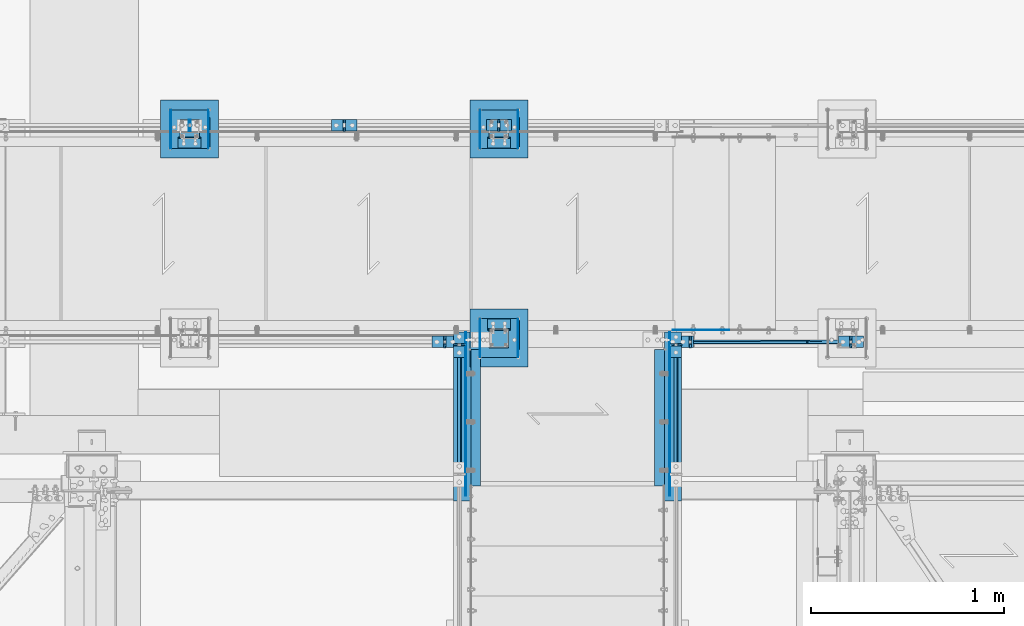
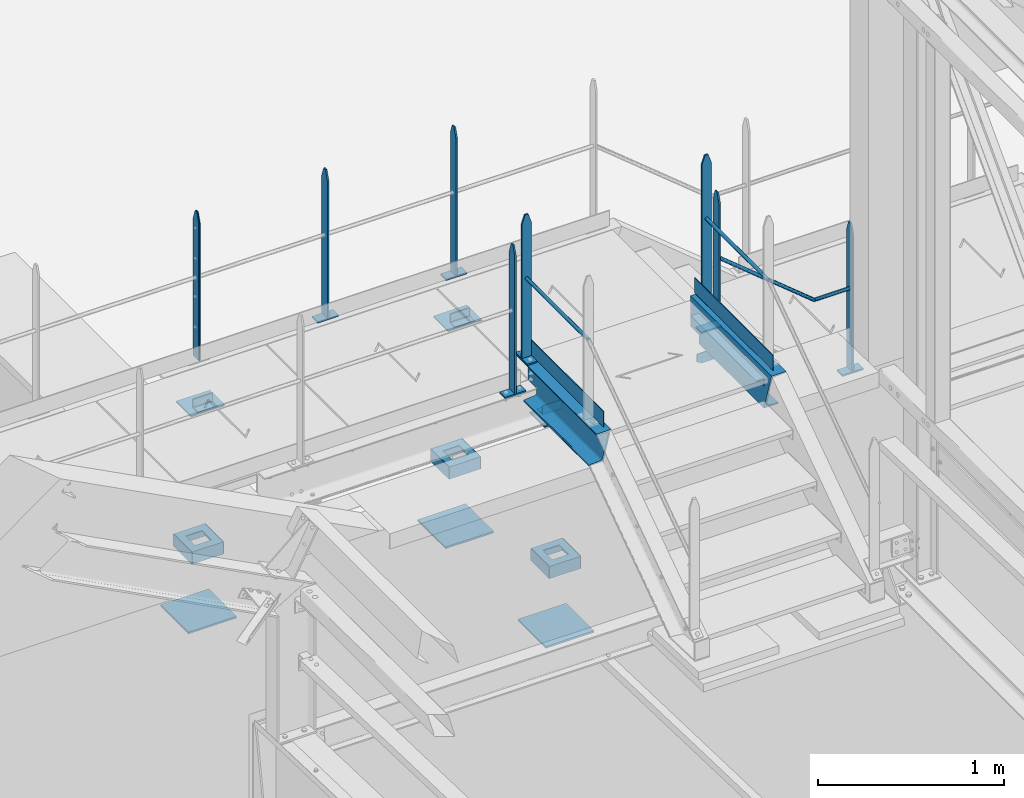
# One storey, part 98 of 362: 44 beams, 1 member, 18 elements without a shape of their own.
"""IFC2X3 building model written with IfcOpenShell, lengths in millimetres."""

from ifc_helpers import new_model, si_unit, frame, origin_with_axes, origin_2d_with_axis, place, context, subcontext, project, spatial, polyline, rectangle, hollow_circle, l_section, u_section, outline, extrude, boolean, clip, halfspace, material, type_object, element, aggregate, save


model = new_model("IFC2X3")

# Units and contexts
model_context = context("Model", 3, precision=1e-05, world=origin_with_axes())
body_context = subcontext(model_context, "Body", "Model", "MODEL_VIEW")
ifc_project = project(units=[si_unit("LENGTHUNIT", "METRE", prefix="MILLI"), si_unit("AREAUNIT", "SQUARE_METRE"), si_unit("VOLUMEUNIT", "CUBIC_METRE"), si_unit("MASSUNIT", "GRAM", prefix="KILO"), si_unit("TIMEUNIT", "SECOND"), si_unit("PLANEANGLEUNIT", "RADIAN"), si_unit("SOLIDANGLEUNIT", "STERADIAN"), si_unit("THERMODYNAMICTEMPERATUREUNIT", "DEGREE_CELSIUS"), si_unit("LUMINOUSINTENSITYUNIT", "LUMEN")], contexts=[model_context])

# Site, building, storey
site_placement = place(None, origin_with_axes())
site = spatial("IfcSite", under=ifc_project, at=site_placement, Name="Undefined", CompositionType="ELEMENT")
building_placement = place(site_placement, origin_with_axes())
building = spatial("IfcBuilding", under=site, at=building_placement, Name="Undefined", CompositionType="ELEMENT")
storey_placement = place(building_placement, origin_with_axes())
storey = spatial("IfcBuildingStorey", under=building, at=storey_placement, Name="Undefined", CompositionType="ELEMENT", Elevation=0.0)

# Assembly, beam
assembly_1_placement = place(storey_placement, origin_with_axes())
assembly_1 = element("IfcElementAssembly", 1, at=assembly_1_placement, inside=storey, Name="MAIN COURANTE", AssemblyPlace="NOTDEFINED", PredefinedType="NOTDEFINED")
ifc_material_1 = material(Name="Undefined/S235-E24")
beam_type_1 = type_object("IfcBeamType", Name="PL10*60", PredefinedType="NOTDEFINED")
beam_1_placement = place(assembly_1_placement, frame((21439.9851177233, 15970.0000882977, 8705.00000001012), z_axis=(0.0, -1.0, 0.0), x_axis=(-1.0, 0.0, 0.0)))
beam_1 = element("IfcBeam", 2, at=beam_1_placement, type_object=beam_type_1, material=ifc_material_1, Name="PLATINE", ObjectType="PL10*60", context=body_context, shape_type="SweptSolid", body=[
    extrude(rectangle(XDim=10.0, YDim=60.0, at=origin_2d_with_axis()), frame((130.0, 0.0, 0.0), z_axis=(-1.0, 0.0, 0.0), x_axis=(0.0, -1.0, 0.0)), (0.0, 0.0, 1.0), 130.0),
])
aggregate(assembly_1, [beam_1])

assembly_2_placement = place(storey_placement, origin_with_axes())
assembly_2 = element("IfcElementAssembly", 3, at=assembly_2_placement, inside=storey, Name="MONTANT", AssemblyPlace="NOTDEFINED", PredefinedType="NOTDEFINED")
beam_2_placement = place(assembly_2_placement, frame((21374.9851177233, 15970.0000882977, 9677.59999847), z_axis=(0.0, 1.0, 0.0), x_axis=(0.0, 0.0, -1.0)))
beam_2 = element("IfcBeam", 4, at=beam_2_placement, type_object=beam_type_1, material=ifc_material_1, Name="MONTANT", ObjectType="PL10*60", context=body_context, shape_type="Clipping", body=[
    clip(clip(extrude(rectangle(XDim=10.0, YDim=60.0, at=origin_2d_with_axis()), frame((967.599838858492, 0.0, 0.0), z_axis=(-1.0, 0.0, 0.0), x_axis=(0.0, -1.0, 0.0)), (0.0, 0.0, 1.0), 967.6), halfspace(frame((-119.99851575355, 5.0, -30.0), z_axis=(-0.316227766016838, 0.0, 0.948683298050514), x_axis=(0.948683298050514, 0.0, 0.316227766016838)), False)), halfspace(frame((60.0014842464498, 5.0, -30.0), z_axis=(-0.316227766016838, 0.0, -0.948683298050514), x_axis=(-0.948683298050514, 0.0, 0.316227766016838)), False)),
])
aggregate(assembly_2, [beam_2])

# Assembly, beams
assembly_3_placement = place(storey_placement, origin_with_axes())
assembly_3 = element("IfcElementAssembly", 5, at=assembly_3_placement, inside=storey, Name="MAIN COURANTE", AssemblyPlace="NOTDEFINED", PredefinedType="NOTDEFINED")
beam_3_placement = place(assembly_3_placement, frame((22660.0061849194, 15970.0000882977, 8705.00015961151), z_axis=(0.0, -1.0, 0.0), x_axis=(-1.0, 0.0, 0.0)))
beam_3 = element("IfcBeam", 6, at=beam_3_placement, type_object=beam_type_1, material=ifc_material_1, Name="PLATINE", ObjectType="PL10*60", context=body_context, shape_type="SweptSolid", body=[
    extrude(rectangle(XDim=10.0, YDim=60.0, at=origin_2d_with_axis()), frame((130.0, 0.0, 0.0), z_axis=(-1.0, 0.0, 0.0), x_axis=(0.0, -1.0, 0.0)), (0.0, 0.0, 1.0), 130.0),
])
beam_4_placement = place(assembly_3_placement, frame((22645.0061849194, 15970.0000882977, 9582.39164232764), z_axis=(0.0, 1.0, 0.0), x_axis=(0.0, 0.0, -1.0)))
beam_4 = element("IfcBeam", 7, at=beam_4_placement, type_object=beam_type_1, material=ifc_material_1, Name="MONTANT", ObjectType="PL10*60", context=body_context, shape_type="Clipping", body=[
    clip(clip(clip(extrude(rectangle(XDim=10.0, YDim=60.0, at=origin_2d_with_axis()), frame((872.391482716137, 0.0, 0.0), z_axis=(-1.0, 0.0, 0.0), x_axis=(0.0, -1.0, 0.0)), (0.0, 0.0, 1.0), 876.53), halfspace(frame((-119.99851575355, -5.0, -30.0), z_axis=(-0.316227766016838, 0.0, 0.948683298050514), x_axis=(0.0, 1.0, 0.0)), False)), halfspace(frame((60.0014842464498, -5.0, -30.0), z_axis=(-0.316227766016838, 0.0, -0.948683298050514), x_axis=(0.0, 1.0, 0.0)), False)), halfspace(frame((7.28321514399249, -8.88829265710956, 0.0), z_axis=(0.773488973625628, 0.633809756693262, 0.0), x_axis=(0.0, 0.0, 1.0)), True)),
])
beam_5_placement = place(assembly_3_placement, frame((23540.0061849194, 15970.0000882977, 8114.9999407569), z_axis=(0.0, -1.0, 0.0), x_axis=(-1.0, 0.0, 0.0)))
beam_5 = element("IfcBeam", 8, at=beam_5_placement, type_object=beam_type_1, material=ifc_material_1, Name="PLATINE", ObjectType="PL10*60", context=body_context, shape_type="SweptSolid", body=[
    extrude(rectangle(XDim=10.0, YDim=60.0, at=origin_2d_with_axis()), frame((130.0, 0.0, 0.0), z_axis=(-1.0, 0.0, 0.0), x_axis=(0.0, -1.0, 0.0)), (0.0, 0.0, 1.0), 130.0),
])
beam_6_placement = place(assembly_3_placement, frame((23475.0061849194, 15970.0000882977, 9087.59993922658), z_axis=(0.0, 1.0, 0.0), x_axis=(0.0, 0.0, -1.0)))
beam_6 = element("IfcBeam", 9, at=beam_6_placement, type_object=beam_type_1, material=ifc_material_1, Name="MONTANT", ObjectType="PL10*60", context=body_context, shape_type="Clipping", body=[
    clip(clip(extrude(rectangle(XDim=10.0, YDim=60.0, at=origin_2d_with_axis()), frame((967.59999845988, 0.0, 0.0), z_axis=(-1.0, 0.0, 0.0), x_axis=(0.0, -1.0, 0.0)), (0.0, 0.0, 1.0), 967.6), halfspace(frame((-120.0, -5.0, -30.0), z_axis=(-0.316227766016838, 0.0, 0.948683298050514), x_axis=(0.0, 1.0, 0.0)), False)), halfspace(frame((60.0, -5.0, -30.0), z_axis=(-0.316227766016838, 0.0, -0.948683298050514), x_axis=(0.0, 1.0, 0.0)), False)),
])

assembly_4_placement = place(storey_placement, origin_with_axes())
assembly_4 = element("IfcElementAssembly", 10, at=assembly_4_placement, inside=storey, Name="MAIN COURANTE", AssemblyPlace="NOTDEFINED", PredefinedType="NOTDEFINED")
beam_7_placement = place(assembly_4_placement, frame((20919.9961849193, 17089.9938659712, 8705.00000001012), z_axis=(0.0, 1.0, 0.0), x_axis=(-1.0, 0.0, 0.0)))
beam_7 = element("IfcBeam", 11, at=beam_7_placement, type_object=beam_type_1, material=ifc_material_1, Name="PLATINE", ObjectType="PL10*60", context=body_context, shape_type="SweptSolid", body=[
    extrude(rectangle(XDim=10.0, YDim=60.0, at=origin_2d_with_axis()), frame((130.0, 0.0, 0.0), z_axis=(-1.0, 0.0, 0.0), x_axis=(0.0, -1.0, 0.0)), (0.0, 0.0, 1.0), 130.0),
])
beam_8_placement = place(assembly_4_placement, frame((20854.9961849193, 17089.9938659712, 9677.59999847), z_axis=(0.0, -1.0, 0.0), x_axis=(0.0, 0.0, -1.0)))
beam_8 = element("IfcBeam", 12, at=beam_8_placement, type_object=beam_type_1, material=ifc_material_1, Name="MONTANT", ObjectType="PL10*60", context=body_context, shape_type="Clipping", body=[
    clip(clip(extrude(rectangle(XDim=10.0, YDim=60.0, at=origin_2d_with_axis()), frame((967.59999845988, 0.0, 0.0), z_axis=(-1.0, 0.0, 0.0), x_axis=(0.0, -1.0, 0.0)), (0.0, 0.0, 1.0), 967.6), halfspace(frame((-120.0, 5.0, -30.0), z_axis=(-0.316227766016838, 0.0, 0.948683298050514), x_axis=(0.948683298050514, 0.0, 0.316227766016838)), False)), halfspace(frame((60.0, 5.0, -30.0), z_axis=(-0.316227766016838, 0.0, -0.948683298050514), x_axis=(-0.948683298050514, 0.0, 0.316227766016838)), False)),
])
beam_9_placement = place(assembly_4_placement, frame((21719.9961849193, 17089.9938659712, 8705.00000001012), z_axis=(0.0, 1.0, 0.0), x_axis=(-1.0, 0.0, 0.0)))
beam_9 = element("IfcBeam", 13, at=beam_9_placement, type_object=beam_type_1, material=ifc_material_1, Name="PLATINE", ObjectType="PL10*60", context=body_context, shape_type="SweptSolid", body=[
    extrude(rectangle(XDim=10.0, YDim=60.0, at=origin_2d_with_axis()), frame((130.0, 0.0, 0.0), z_axis=(-1.0, 0.0, 0.0), x_axis=(0.0, -1.0, 0.0)), (0.0, 0.0, 1.0), 130.0),
])

assembly_5_placement = place(storey_placement, origin_with_axes())
assembly_5 = element("IfcElementAssembly", 14, at=assembly_5_placement, inside=storey, Name="MAIN COURANTE", AssemblyPlace="NOTDEFINED", PredefinedType="NOTDEFINED")
beam_10_placement = place(assembly_5_placement, frame((21449.9863365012, 16019.9996531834, 8915.0), z_axis=(-1.0, 0.0, 0.0), x_axis=(0.0, -1.0, 0.0)))
beam_10 = element("IfcBeam", 15, at=beam_10_placement, type_object=beam_type_1, material=ifc_material_1, Name="PLATINE", ObjectType="PL10*60", context=body_context, shape_type="SweptSolid", body=[
    extrude(rectangle(XDim=10.0, YDim=60.0, at=origin_2d_with_axis()), frame((130.0, 0.0, 0.0), z_axis=(-1.0, 0.0, 0.0), x_axis=(0.0, -1.0, 0.0)), (0.0, 0.0, 1.0), 130.0),
])
beam_11_placement = place(assembly_5_placement, frame((21449.9862112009, 15954.9996531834, 9857.59999847), z_axis=(-0.99999999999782, -2.08799999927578e-06, 0.0), x_axis=(0.0, 0.0, -1.0)))
beam_11 = element("IfcBeam", 16, at=beam_11_placement, type_object=beam_type_1, material=ifc_material_1, Name="MONTANT", ObjectType="PL10*60", context=body_context, shape_type="Clipping", body=[
    clip(clip(extrude(rectangle(XDim=10.0, YDim=60.0, at=origin_2d_with_axis()), frame((937.599998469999, 0.0, 0.0), z_axis=(-1.0, 0.0, 0.0), x_axis=(0.0, -1.0, 0.0)), (0.0, 0.0, 1.0), 937.6), halfspace(frame((-119.999937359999, -4.99999999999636, -30.0), z_axis=(-0.316227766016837, -1.98085072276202e-06, 0.948683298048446), x_axis=(-6.26399999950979e-06, 0.999999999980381, -3.63797880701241e-15)), False)), halfspace(frame((60.0, -5.0, -30.0), z_axis=(-0.316227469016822, 1.98084886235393e-06, -0.948683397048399), x_axis=(6.26399999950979e-06, 0.999999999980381, -3.63797880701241e-15)), False)),
])

assembly_6_placement = place(storey_placement, origin_with_axes())
assembly_6 = element("IfcElementAssembly", 17, at=assembly_6_placement, inside=storey, Name="MAIN COURANTE", AssemblyPlace="NOTDEFINED", PredefinedType="NOTDEFINED")
beam_12_placement = place(assembly_6_placement, frame((22569.9936634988, 16019.9996531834, 8915.0), z_axis=(1.0, 0.0, 0.0), x_axis=(0.0, -1.0, 0.0)))
beam_12 = element("IfcBeam", 18, at=beam_12_placement, type_object=beam_type_1, material=ifc_material_1, Name="PLATINE", ObjectType="PL10*60", context=body_context, shape_type="SweptSolid", body=[
    extrude(rectangle(XDim=10.0, YDim=60.0, at=origin_2d_with_axis()), frame((130.0, 0.0, 0.0), z_axis=(-1.0, 0.0, 0.0), x_axis=(0.0, -1.0, 0.0)), (0.0, 0.0, 1.0), 130.0),
])
beam_13_placement = place(assembly_6_placement, frame((22569.9937887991, 15954.9996531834, 9857.59999847), z_axis=(0.999999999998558, -1.69800000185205e-06, 0.0), x_axis=(0.0, 0.0, -1.0)))
beam_13 = element("IfcBeam", 19, at=beam_13_placement, type_object=beam_type_1, material=ifc_material_1, Name="MONTANT", ObjectType="PL10*60", context=body_context, shape_type="Clipping", body=[
    clip(clip(extrude(rectangle(XDim=10.0, YDim=60.0, at=origin_2d_with_axis()), frame((937.599998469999, 0.0, 0.0), z_axis=(-1.0, 0.0, 0.0), x_axis=(0.0, -1.0, 0.0)), (0.0, 0.0, 1.0), 937.6), halfspace(frame((-119.999937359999, 4.99999999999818, -30.0), z_axis=(-0.316227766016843, 1.98085072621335e-06, 0.948683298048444), x_axis=(0.948683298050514, 0.0, 0.316227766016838)), False)), halfspace(frame((60.0, 5.0, -30.0), z_axis=(-0.316227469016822, -1.98084886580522e-06, -0.948683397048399), x_axis=(-0.948683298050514, 0.0, 0.316227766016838)), False)),
])

# Beam
beam_14_placement = place(assembly_4_placement, frame((21654.9961849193, 17089.9938659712, 9677.59999847), z_axis=(0.0, -1.0, 0.0), x_axis=(0.0, 0.0, -1.0)))
beam_14 = element("IfcBeam", 20, at=beam_14_placement, type_object=beam_type_1, material=ifc_material_1, Name="MONTANT", ObjectType="PL10*60", context=body_context, shape_type="Clipping", body=[
    clip(clip(extrude(rectangle(XDim=10.0, YDim=60.0, at=origin_2d_with_axis()), frame((967.59999845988, 0.0, 0.0), z_axis=(-1.0, 0.0, 0.0), x_axis=(0.0, -1.0, 0.0)), (0.0, 0.0, 1.0), 967.6), halfspace(frame((-120.0, 5.0, -30.0), z_axis=(-0.316227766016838, 0.0, 0.948683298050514), x_axis=(0.948683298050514, 0.0, 0.316227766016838)), False)), halfspace(frame((60.0, 5.0, -30.0), z_axis=(-0.316227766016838, 0.0, -0.948683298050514), x_axis=(-0.948683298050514, 0.0, 0.316227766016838)), False)),
])

beam_type_2 = type_object("IfcBeamType", Name="TUBE-21.3*2", PredefinedType="NOTDEFINED")
beam_15_placement = place(assembly_3_placement, frame((23250.3145397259, 15970.0002031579, 8653.80000001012), z_axis=(0.0, -1.0, 0.0), x_axis=(1.0, 0.0, 0.0)))
beam_15 = element("IfcBeam", 21, at=beam_15_placement, type_object=beam_type_2, material=ifc_material_1, Name="LISSE", ObjectType="TUBE-21.3*2", context=body_context, shape_type="Clipping", body=[
    clip(extrude(hollow_circle(Radius=10.64999962, WallThickness=2.0, at=origin_2d_with_axis()), frame((219.691645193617, 1.81898940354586e-12, 0.0), z_axis=(-1.0, 0.0, 0.0), x_axis=(0.0, -1.0, 0.0)), (0.0, 0.0, 1.0), 223.54), halfspace(frame((3.80609846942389, 10.6499996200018, 0.000112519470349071), z_axis=(0.941671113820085, -0.336534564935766, -5.79127735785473e-07), x_axis=(-0.336534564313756, -0.941671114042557, 0.0)), True)),
])

beam_16_placement = place(assembly_6_placement, frame((22569.9936634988, 15290.0038659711, 9438.8), z_axis=(0.999999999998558, -1.69800000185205e-06, 0.0), x_axis=(1.69800000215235e-06, 0.999999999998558, 0.0)))
beam_16 = element("IfcBeam", 22, at=beam_16_placement, type_object=beam_type_2, material=ifc_material_1, Name="LISSE", ObjectType="TUBE-21.3*2", context=body_context, shape_type="SweptSolid", body=[
    extrude(hollow_circle(Radius=10.64999962, WallThickness=2.0, at=origin_2d_with_axis()), frame((659.995802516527, 1.81898940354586e-12, -1.3975954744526e-19), z_axis=(-1.0, 0.0, 0.0), x_axis=(0.0, -1.0, 0.0)), (0.0, 0.0, 1.0), 660.0),
])

beam_17_placement = place(assembly_5_placement, frame((21449.9863365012, 15290.0038659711, 9438.8), z_axis=(-0.99999999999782, -2.08799999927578e-06, 0.0), x_axis=(-1.15500000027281e-06, 0.999999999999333, 0.0)))
beam_17 = element("IfcBeam", 23, at=beam_17_placement, type_object=beam_type_2, material=ifc_material_1, Name="LISSE", ObjectType="TUBE-21.3*2", context=body_context, shape_type="SweptSolid", body=[
    extrude(hollow_circle(Radius=10.64999962, WallThickness=2.0, at=origin_2d_with_axis()), frame((659.995802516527, 1.81898940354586e-12, -1.3975954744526e-19), z_axis=(-1.0, 0.0, 0.0), x_axis=(0.0, -1.0, 0.0)), (0.0, 0.0, 1.0), 660.0),
])

# Member
member_type = type_object("IfcMemberType", Name="TUBE-21.3*2", PredefinedType="NOTDEFINED")
member_placement = place(assembly_3_placement, frame((23250.3145397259, 15970.0040747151, 8653.80000001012), z_axis=(0.0, 1.0, 0.0), x_axis=(-0.773488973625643, 0.0, 0.633809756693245)))
member = element("IfcMember", 24, at=member_placement, type_object=member_type, material=ifc_material_1, Name="LISSE", ObjectType="TUBE-21.3*2", context=body_context, shape_type="Clipping", body=[
    clip(clip(extrude(hollow_circle(Radius=10.64999962, WallThickness=2.0, at=origin_2d_with_axis()), frame((794.709650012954, 0.0, 0.0), z_axis=(-1.0, 0.0, 0.0), x_axis=(0.0, -1.0, 0.0)), (0.0, 0.0, 1.0), 813.31), halfspace(frame((787.048146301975, 13.3552820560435, -0.00398641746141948), z_axis=(-0.773488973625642, 0.633809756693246, 0.0), x_axis=(-0.633809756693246, -0.773488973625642, 0.0)), True)), halfspace(frame((3.80609846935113, 10.6499996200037, -0.00398641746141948), z_axis=(-0.941671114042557, 0.336534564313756, 0.0), x_axis=(-0.336534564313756, -0.941671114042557, 0.0)), False)),
])

aggregate(assembly_3, [beam_3, beam_4, beam_5, member, beam_15, beam_6])

# Assembly, beam
assembly_7_placement = place(storey_placement, origin_with_axes())
assembly_7 = element("IfcElementAssembly", 25, at=assembly_7_placement, inside=storey, AssemblyPlace="NOTDEFINED", PredefinedType="NOTDEFINED")
beam_type_3 = type_object("IfcBeamType", Name="PL12*300", PredefinedType="NOTDEFINED")
beam_18_placement = place(assembly_7_placement, frame((20205.0, 17219.9998774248, 7056.0), z_axis=(0.0, 0.0, 1.0), x_axis=(-1.0, 0.0, 0.0)))
beam_18 = element("IfcBeam", 26, at=beam_18_placement, type_object=beam_type_3, material=ifc_material_1, Name="PLATINE", ObjectType="PL12*300", context=body_context, shape_type="SweptSolid", body=[
    extrude(outline(polyline([(0.0, 0.0), (300.0, 0.0), (300.0, 300.0), (0.0, 300.0), (0.0, 0.0)])), frame((0.0, 0.0, -6.0), z_axis=(0.0, 0.0, 1.0), x_axis=(1.0, 0.0, 0.0)), (0.0, 0.0, 1.0), 12.0),
])

assembly_8_placement = place(storey_placement, origin_with_axes())
assembly_8 = element("IfcElementAssembly", 27, at=assembly_8_placement, inside=storey, AssemblyPlace="NOTDEFINED", PredefinedType="NOTDEFINED")
beam_19_placement = place(assembly_8_placement, frame((21805.0, 15840.0001225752, 7056.0), z_axis=(0.0, 0.0, -1.0), x_axis=(-1.0, 0.0, 0.0)))
beam_19 = element("IfcBeam", 28, at=beam_19_placement, type_object=beam_type_3, material=ifc_material_1, Name="PLATINE", ObjectType="PL12*300", context=body_context, shape_type="SweptSolid", body=[
    extrude(outline(polyline([(0.0, 0.0), (300.0, 0.0), (300.0, 300.0), (0.0, 300.0), (0.0, 0.0)])), frame((0.0, 0.0, -6.0), z_axis=(0.0, 0.0, 1.0), x_axis=(1.0, 0.0, 0.0)), (0.0, 0.0, 1.0), 12.0),
])

assembly_9_placement = place(storey_placement, origin_with_axes())
assembly_9 = element("IfcElementAssembly", 29, at=assembly_9_placement, inside=storey, AssemblyPlace="NOTDEFINED", PredefinedType="NOTDEFINED")
beam_20_placement = place(assembly_9_placement, frame((21805.0, 17219.9998774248, 7056.0), z_axis=(0.0, 0.0, 1.0), x_axis=(-1.0, 0.0, 0.0)))
beam_20 = element("IfcBeam", 30, at=beam_20_placement, type_object=beam_type_3, material=ifc_material_1, Name="PLATINE", ObjectType="PL12*300", context=body_context, shape_type="SweptSolid", body=[
    extrude(outline(polyline([(0.0, 0.0), (300.0, 0.0), (300.0, 300.0), (0.0, 300.0), (0.0, 0.0)])), frame((0.0, 0.0, -6.0), z_axis=(0.0, 0.0, 1.0), x_axis=(1.0, 0.0, 0.0)), (0.0, 0.0, 1.0), 12.0),
])

# Beam
beam_type_4 = type_object("IfcBeamType", Name="PL100*5", PredefinedType="NOTDEFINED")
beam_21_placement = place(assembly_5_placement, frame((21482.4987221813, 16019.9997158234, 8970.0), z_axis=(0.0, 0.0, -1.0), x_axis=(0.0, -1.0, 0.0)))
beam_21 = element("IfcBeam", 31, at=beam_21_placement, type_object=beam_type_4, material=ifc_material_1, Name="PLINTHE", ObjectType="PL100*5", context=body_context, shape_type="SweptSolid", body=[
    extrude(rectangle(XDim=5.0, YDim=100.0, at=origin_2d_with_axis()), frame((844.999940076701, 0.0, 0.0), z_axis=(-1.0, 0.0, 0.0), x_axis=(0.0, -1.0, 0.0)), (0.0, 0.0, 1.0), 845.0),
])

aggregate(assembly_5, [beam_17, beam_21, beam_10, beam_11])

beam_22_placement = place(assembly_6_placement, frame((22537.4812778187, 16019.9997158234, 8970.0), z_axis=(0.0, 0.0, -1.0), x_axis=(0.0, -1.0, 0.0)))
beam_22 = element("IfcBeam", 32, at=beam_22_placement, type_object=beam_type_4, material=ifc_material_1, Name="PLINTHE", ObjectType="PL100*5", context=body_context, shape_type="SweptSolid", body=[
    extrude(rectangle(XDim=5.0, YDim=100.0, at=origin_2d_with_axis()), frame((844.999940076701, 0.0, 0.0), z_axis=(-1.0, 0.0, 0.0), x_axis=(0.0, -1.0, 0.0)), (0.0, 0.0, 1.0), 845.0),
])

aggregate(assembly_6, [beam_16, beam_22, beam_12, beam_13])

beam_type_5 = type_object("IfcBeamType", Name="PL5*60", PredefinedType="NOTDEFINED")
beam_23_placement = place(assembly_4_placement, frame((20057.4961849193, 17089.9938659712, 9677.59999847), z_axis=(0.0, -1.0, 0.0), x_axis=(0.0, 0.0, -1.0)))
beam_23 = element("IfcBeam", 33, at=beam_23_placement, type_object=beam_type_5, material=ifc_material_1, Name="MONTANT", ObjectType="PL5*60", context=body_context, shape_type="Clipping", body=[
    clip(clip(extrude(rectangle(XDim=5.0, YDim=60.0, at=origin_2d_with_axis()), frame((967.59999845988, 0.0, 0.0), z_axis=(-1.0, 0.0, 0.0), x_axis=(0.0, -1.0, 0.0)), (0.0, 0.0, 1.0), 967.6), halfspace(frame((-120.0, -5.0, -30.0), z_axis=(-0.316227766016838, 0.0, 0.948683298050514), x_axis=(0.0, 1.0, 0.0)), False)), halfspace(frame((60.0, -5.0, -30.0), z_axis=(-0.316227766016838, 0.0, -0.948683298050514), x_axis=(0.0, 1.0, 0.0)), False)),
])

aggregate(assembly_4, [beam_23, beam_7, beam_8, beam_9, beam_14])

# Assembly, beam
assembly_10_placement = place(storey_placement, origin_with_axes())
assembly_10 = element("IfcElementAssembly", 34, at=assembly_10_placement, inside=storey, Name="MAIN COURANTE", AssemblyPlace="NOTDEFINED", PredefinedType="NOTDEFINED")
beam_24_placement = place(assembly_10_placement, frame((20052.4961849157, 17089.9938659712, 9677.59999847), z_axis=(0.0, -1.0, 0.0), x_axis=(0.0, 0.0, -1.0)))
beam_24 = element("IfcBeam", 35, at=beam_24_placement, type_object=beam_type_5, material=ifc_material_1, Name="MONTANT", ObjectType="PL5*60", context=body_context, shape_type="Clipping", body=[
    clip(clip(extrude(rectangle(XDim=5.0, YDim=60.0, at=origin_2d_with_axis()), frame((967.59999845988, 0.0, 0.0), z_axis=(-1.0, 0.0, 0.0), x_axis=(0.0, -1.0, 0.0)), (0.0, 0.0, 1.0), 967.6), halfspace(frame((-120.0, 5.0, -30.0), z_axis=(-0.316227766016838, 0.0, 0.948683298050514), x_axis=(0.948683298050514, 0.0, 0.316227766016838)), False)), halfspace(frame((60.0, 5.0, -30.0), z_axis=(-0.316227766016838, 0.0, -0.948683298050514), x_axis=(-0.948683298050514, 0.0, 0.316227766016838)), False)),
])
aggregate(assembly_10, [beam_24])

# Beam
beam_type_6 = type_object("IfcBeamType", Name="PL8*160", PredefinedType="NOTDEFINED")
beam_25_placement = place(assembly_7_placement, frame((20160.0, 17129.9993585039, 8436.00011661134), z_axis=(0.0, 0.0, 1.0), x_axis=(-1.0, 0.0, 0.0)))
beam_25 = element("IfcBeam", 36, at=beam_25_placement, type_object=beam_type_6, material=ifc_material_1, Name="PLATINE", ObjectType="PL8*160", context=body_context, shape_type="SweptSolid", body=[
    extrude(outline(polyline([(0.0, 0.0), (210.0, 0.0), (210.0, 159.999481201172), (0.0, 159.999481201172), (0.0, 0.0)])), frame((0.0, 0.0, -4.0), z_axis=(0.0, 0.0, 1.0), x_axis=(1.0, 0.0, 0.0)), (0.0, 0.0, 1.0), 8.0),
])

beam_26_placement = place(assembly_8_placement, frame((21760.0, 15930.0006414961, 8436.00011661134), z_axis=(0.0, 0.0, -1.0), x_axis=(-1.0, 0.0, 0.0)))
beam_26 = element("IfcBeam", 37, at=beam_26_placement, type_object=beam_type_6, material=ifc_material_1, Name="PLATINE", ObjectType="PL8*160", context=body_context, shape_type="SweptSolid", body=[
    extrude(outline(polyline([(0.0, 0.0), (210.0, 0.0), (210.0, 159.999481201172), (0.0, 159.999481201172), (0.0, 0.0)])), frame((0.0, 0.0, -4.0), z_axis=(0.0, 0.0, 1.0), x_axis=(1.0, 0.0, 0.0)), (0.0, 0.0, 1.0), 8.0),
])

beam_27_placement = place(assembly_9_placement, frame((21760.0, 17129.9993585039, 8436.00011661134), z_axis=(0.0, 0.0, 1.0), x_axis=(-1.0, 0.0, 0.0)))
beam_27 = element("IfcBeam", 38, at=beam_27_placement, type_object=beam_type_6, material=ifc_material_1, Name="PLATINE", ObjectType="PL8*160", context=body_context, shape_type="SweptSolid", body=[
    extrude(outline(polyline([(0.0, 0.0), (210.0, 0.0), (210.0, 159.999481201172), (0.0, 159.999481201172), (0.0, 0.0)])), frame((0.0, 0.0, -4.0), z_axis=(0.0, 0.0, 1.0), x_axis=(1.0, 0.0, 0.0)), (0.0, 0.0, 1.0), 8.0),
])

beam_type_7 = type_object("IfcBeamType", Name="PL4*80", PredefinedType="NOTDEFINED")
beam_28_placement = place(assembly_7_placement, frame((20153.0, 16969.9998774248, 7500.0), z_axis=(0.0, 0.0, 1.0), x_axis=(0.0, 1.0, 0.0)))
beam_28 = element("IfcBeam", 39, at=beam_28_placement, type_object=beam_type_7, material=ifc_material_1, Name="BORD COLLERETTE", ObjectType="PL4*80", context=body_context, shape_type="SweptSolid", body=[
    extrude(rectangle(XDim=4.0, YDim=80.0, at=origin_2d_with_axis()), frame((200.0, 0.0, 0.0), z_axis=(-1.0, 0.0, 0.0), x_axis=(0.0, -1.0, 0.0)), (0.0, 0.0, 1.0), 200.0),
])

beam_29_placement = place(assembly_7_placement, frame((19957.0, 16969.9998774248, 7500.0), z_axis=(0.0, 0.0, 1.0), x_axis=(0.0, 1.0, 0.0)))
beam_29 = element("IfcBeam", 40, at=beam_29_placement, type_object=beam_type_7, material=ifc_material_1, Name="BORD COLLERETTE", ObjectType="PL4*80", context=body_context, shape_type="SweptSolid", body=[
    extrude(rectangle(XDim=4.0, YDim=80.0, at=origin_2d_with_axis()), frame((200.0, 0.0, 0.0), z_axis=(-1.0, 0.0, 0.0), x_axis=(0.0, -1.0, 0.0)), (0.0, 0.0, 1.0), 200.0),
])

beam_30_placement = place(assembly_8_placement, frame((21753.0, 16090.0001225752, 7500.0), z_axis=(0.0, 0.0, 1.0), x_axis=(0.0, -1.0, 0.0)))
beam_30 = element("IfcBeam", 41, at=beam_30_placement, type_object=beam_type_7, material=ifc_material_1, Name="BORD COLLERETTE", ObjectType="PL4*80", context=body_context, shape_type="SweptSolid", body=[
    extrude(rectangle(XDim=4.0, YDim=80.0, at=origin_2d_with_axis()), frame((200.0, 0.0, 0.0), z_axis=(-1.0, 0.0, 0.0), x_axis=(0.0, -1.0, 0.0)), (0.0, 0.0, 1.0), 200.0),
])

beam_31_placement = place(assembly_8_placement, frame((21557.0, 16090.0001225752, 7500.0), z_axis=(0.0, 0.0, 1.0), x_axis=(0.0, -1.0, 0.0)))
beam_31 = element("IfcBeam", 42, at=beam_31_placement, type_object=beam_type_7, material=ifc_material_1, Name="BORD COLLERETTE", ObjectType="PL4*80", context=body_context, shape_type="SweptSolid", body=[
    extrude(rectangle(XDim=4.0, YDim=80.0, at=origin_2d_with_axis()), frame((200.0, 0.0, 0.0), z_axis=(-1.0, 0.0, 0.0), x_axis=(0.0, -1.0, 0.0)), (0.0, 0.0, 1.0), 200.0),
])

beam_32_placement = place(assembly_9_placement, frame((21753.0, 16969.9998774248, 7500.0), z_axis=(0.0, 0.0, 1.0), x_axis=(0.0, 1.0, 0.0)))
beam_32 = element("IfcBeam", 43, at=beam_32_placement, type_object=beam_type_7, material=ifc_material_1, Name="BORD COLLERETTE", ObjectType="PL4*80", context=body_context, shape_type="SweptSolid", body=[
    extrude(rectangle(XDim=4.0, YDim=80.0, at=origin_2d_with_axis()), frame((200.0, 0.0, 0.0), z_axis=(-1.0, 0.0, 0.0), x_axis=(0.0, -1.0, 0.0)), (0.0, 0.0, 1.0), 200.0),
])

beam_33_placement = place(assembly_9_placement, frame((21557.0, 16969.9998774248, 7500.0), z_axis=(0.0, 0.0, 1.0), x_axis=(0.0, 1.0, 0.0)))
beam_33 = element("IfcBeam", 44, at=beam_33_placement, type_object=beam_type_7, material=ifc_material_1, Name="BORD COLLERETTE", ObjectType="PL4*80", context=body_context, shape_type="SweptSolid", body=[
    extrude(rectangle(XDim=4.0, YDim=80.0, at=origin_2d_with_axis()), frame((200.0, 0.0, 0.0), z_axis=(-1.0, 0.0, 0.0), x_axis=(0.0, -1.0, 0.0)), (0.0, 0.0, 1.0), 200.0),
])

beam_type_8 = type_object("IfcBeamType", Name="UPF-200*80*4", PredefinedType="NOTDEFINED")
beam_34_placement = place(assembly_7_placement, frame((19959.0, 17069.9998774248, 7500.0), z_axis=(0.0, -1.0, 0.0), x_axis=(1.0, 0.0, 0.0)))
beam_34 = element("IfcBeam", 45, at=beam_34_placement, type_object=beam_type_8, material=ifc_material_1, Name="COLLERETTE", ObjectType="UPF-200*80*4", context=body_context, shape_type="CSG", body=[
    boolean("DIFFERENCE", extrude(u_section(Depth=200.0, FlangeWidth=80.0, WebThickness=4.0, FlangeThickness=4.0, at=origin_2d_with_axis()), frame((192.0, 0.0, 0.0), z_axis=(-1.0, 0.0, 0.0), x_axis=(0.0, -1.0, 0.0)), (0.0, 0.0, 1.0), 192.0), extrude(outline(polyline([(0.0, 0.0), (101.0, 0.0), (101.0, 101.0), (0.0, 101.0), (0.0, 0.0)])), frame((45.5, -42.5, -50.5), z_axis=(0.0, 1.0, 0.0), x_axis=(0.0, 0.0, 1.0)), (0.0, 0.0, 1.0), 85.0)),
])

aggregate(assembly_7, [beam_25, beam_28, beam_29, beam_34, beam_18])

beam_35_placement = place(assembly_8_placement, frame((21751.0, 15990.0001225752, 7500.0), z_axis=(0.0, 1.0, 0.0), x_axis=(-1.0, 0.0, 0.0)))
beam_35 = element("IfcBeam", 46, at=beam_35_placement, type_object=beam_type_8, material=ifc_material_1, Name="COLLERETTE", ObjectType="UPF-200*80*4", context=body_context, shape_type="CSG", body=[
    boolean("DIFFERENCE", extrude(u_section(Depth=200.0, FlangeWidth=80.0, WebThickness=4.0, FlangeThickness=4.0, at=origin_2d_with_axis()), frame((192.0, 0.0, 0.0), z_axis=(-1.0, 0.0, 0.0), x_axis=(0.0, -1.0, 0.0)), (0.0, 0.0, 1.0), 192.0), extrude(outline(polyline([(0.0, 0.0), (101.0, 0.0), (101.0, 101.0), (0.0, 101.0), (0.0, 0.0)])), frame((146.5, -42.5, 50.5), z_axis=(0.0, 1.0, 0.0), x_axis=(0.0, 0.0, -1.0)), (0.0, 0.0, 1.0), 85.0)),
])

aggregate(assembly_8, [beam_26, beam_30, beam_31, beam_35, beam_19])

beam_36_placement = place(assembly_9_placement, frame((21559.0, 17069.9998774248, 7500.0), z_axis=(0.0, -1.0, 0.0), x_axis=(1.0, 0.0, 0.0)))
beam_36 = element("IfcBeam", 47, at=beam_36_placement, type_object=beam_type_8, material=ifc_material_1, Name="COLLERETTE", ObjectType="UPF-200*80*4", context=body_context, shape_type="CSG", body=[
    boolean("DIFFERENCE", extrude(u_section(Depth=200.0, FlangeWidth=80.0, WebThickness=4.0, FlangeThickness=4.0, at=origin_2d_with_axis()), frame((192.0, 0.0, 0.0), z_axis=(-1.0, 0.0, 0.0), x_axis=(0.0, -1.0, 0.0)), (0.0, 0.0, 1.0), 192.0), extrude(outline(polyline([(0.0, 0.0), (101.0, 0.0), (101.0, 101.0), (0.0, 101.0), (0.0, 0.0)])), frame((45.5, -42.5, -50.5), z_axis=(0.0, 1.0, 0.0), x_axis=(0.0, 0.0, 1.0)), (0.0, 0.0, 1.0), 85.0)),
])

aggregate(assembly_9, [beam_27, beam_32, beam_33, beam_36, beam_20])

# Assembly, beam
assembly_11_placement = place(storey_placement, origin_with_axes())
assembly_11 = element("IfcElementAssembly", 48, at=assembly_11_placement, inside=storey, Name="SUPPORT", AssemblyPlace="NOTDEFINED", PredefinedType="NOTDEFINED")
beam_type_9 = type_object("IfcBeamType", Name="L50*5", PredefinedType="NOTDEFINED")
beam_37_placement = place(assembly_11_placement, frame((22484.9814327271, 15930.0058468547, 8825.0), z_axis=(-1.0, 0.0, 0.0), x_axis=(0.0, -1.0, 0.0)))
beam_37 = element("IfcBeam", 49, at=beam_37_placement, type_object=beam_type_9, material=ifc_material_1, Name="SUPPORT", ObjectType="L50*5", context=body_context, shape_type="SweptSolid", body=[
    extrude(l_section(Depth=50.0, Width=50.0, Thickness=5.0, FilletRadius=7.0, EdgeRadius=3.5, at=origin_2d_with_axis()), frame((704.999999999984, 0.0, 0.0), z_axis=(-1.0, 0.0, 0.0), x_axis=(0.0, -1.0, 0.0)), (0.0, 0.0, 1.0), 705.0),
])
aggregate(assembly_11, [beam_37])

assembly_12_placement = place(storey_placement, origin_with_axes())
assembly_12 = element("IfcElementAssembly", 50, at=assembly_12_placement, inside=storey, Name="SUPPORT", AssemblyPlace="NOTDEFINED", PredefinedType="NOTDEFINED")
beam_38_placement = place(assembly_12_placement, frame((21535.0061849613, 15225.0058468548, 8825.0), z_axis=(1.0, 0.0, 0.0), x_axis=(0.0, 1.0, 0.0)))
beam_38 = element("IfcBeam", 51, at=beam_38_placement, type_object=beam_type_9, material=ifc_material_1, Name="SUPPORT", ObjectType="L50*5", context=body_context, shape_type="SweptSolid", body=[
    extrude(l_section(Depth=50.0, Width=50.0, Thickness=5.0, FilletRadius=7.0, EdgeRadius=3.5, at=origin_2d_with_axis()), frame((704.999999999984, 0.0, 0.0), z_axis=(-1.0, 0.0, 0.0), x_axis=(0.0, -1.0, 0.0)), (0.0, 0.0, 1.0), 705.0),
])
aggregate(assembly_12, [beam_38])

assembly_13_placement = place(storey_placement, origin_with_axes())
assembly_13 = element("IfcElementAssembly", 52, at=assembly_13_placement, inside=storey, AssemblyPlace="NOTDEFINED", PredefinedType="NOTDEFINED")
ifc_material_2 = material(Name="Undefined/S275-E28")
beam_type_10 = type_object("IfcBeamType", Name="UPN260", PredefinedType="NOTDEFINED")
beam_39_placement = place(assembly_13_placement, frame((22555.0056513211, 16019.9995705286, 8780.0), z_axis=(0.0, 0.0, -1.0), x_axis=(-1.83600000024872e-06, -0.999999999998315, 0.0)))
beam_39 = element("IfcBeam", 53, at=beam_39_placement, type_object=beam_type_10, material=ifc_material_2, Name="LIMON", ObjectType="UPN260", context=body_context, shape_type="CSG", body=[
    boolean("DIFFERENCE", boolean("DIFFERENCE", extrude(u_section(Depth=260.0, FlangeWidth=90.0, WebThickness=10.0, FlangeThickness=14.0, FilletRadius=14.0, EdgeRadius=7.0, FlangeSlope=0.0798299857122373, at=origin_2d_with_axis()), frame((874.295008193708, 1.8513916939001e-19, 0.0), z_axis=(-1.0, 0.0, 0.0), x_axis=(0.0, -1.0, 0.0)), (0.0, 0.0, 1.0), 874.3), extrude(outline(polyline([(0.0, 0.0), (90.0001678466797, 0.0), (90.0001678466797, 100.0), (0.0, 100.0), (0.0, 0.0)])), frame((89.9958784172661, -47.9984209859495, 160.0), z_axis=(1.69800000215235e-06, 0.999999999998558, 0.0), x_axis=(0.0, 0.0, -1.0)), (0.0, 0.0, 1.0), 96.0)), halfspace(frame((792.671784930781, 545.010387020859, 130.000000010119), z_axis=(0.954513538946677, -1.75248685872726e-06, 0.29816757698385), x_axis=(1.69800000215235e-06, 0.999999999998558, 0.0)), False)),
])
aggregate(assembly_13, [beam_39])

assembly_14_placement = place(storey_placement, origin_with_axes())
assembly_14 = element("IfcElementAssembly", 54, at=assembly_14_placement, inside=storey, AssemblyPlace="NOTDEFINED", PredefinedType="NOTDEFINED")
beam_40_placement = place(assembly_14_placement, frame((21465.0039852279, 15146.1108193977, 8779.99999998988), z_axis=(0.0, 0.0, -1.0), x_axis=(-1.15500000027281e-06, 0.999999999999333, 0.0)))
beam_40 = element("IfcBeam", 55, at=beam_40_placement, type_object=beam_type_10, material=ifc_material_2, Name="LIMON", ObjectType="UPN260", context=body_context, shape_type="CSG", body=[
    boolean("DIFFERENCE", boolean("DIFFERENCE", extrude(u_section(Depth=260.0, FlangeWidth=90.0, WebThickness=10.0, FlangeThickness=14.0, FilletRadius=14.0, EdgeRadius=7.0, FlangeSlope=0.0798299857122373, at=origin_2d_with_axis()), frame((873.888751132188, 0.0, 1.81898940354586e-12), z_axis=(-1.0, 0.0, 0.0), x_axis=(0.0, -1.0, 0.0)), (0.0, 0.0, 1.0), 874.3), extrude(outline(polyline([(0.0, 0.0), (90.0001678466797, 0.0), (90.0001678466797, 100.0), (0.0, 100.0), (0.0, 0.0)])), frame((783.892696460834, 48.0006366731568, 159.999999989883), z_axis=(1.83599999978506e-06, -0.999999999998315, 0.0), x_axis=(0.0, 0.0, -1.0)), (0.0, 0.0, 1.0), 96.0)), halfspace(frame((-0.000917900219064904, 544.989823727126, -130.000000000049), z_axis=(0.954513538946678, 1.75248685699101e-06, -0.298167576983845), x_axis=(1.83599999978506e-06, -0.999999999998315, 0.0)), True)),
])
aggregate(assembly_14, [beam_40])

assembly_15_placement = place(storey_placement, origin_with_axes())
assembly_15 = element("IfcElementAssembly", 56, at=assembly_15_placement, inside=storey, Name="MARCHE", AssemblyPlace="NOTDEFINED", PredefinedType="NOTDEFINED")
beam_type_11 = type_object("IfcBeamType", Name="TOLE3*70", PredefinedType="NOTDEFINED")
beam_41_placement = place(assembly_15_placement, frame((22844.9999902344, 16031.4998774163, 8503.3299407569), z_axis=(0.0, 1.0, 0.0), x_axis=(0.0, 0.0, -1.0)))
beam_41 = element("IfcBeam", 57, at=beam_41_placement, type_object=beam_type_11, material=ifc_material_1, Name="PLAT MARCHE", ObjectType="TOLE3*70", context=body_context, shape_type="SweptSolid", body=[
    extrude(outline(polyline([(0.0, 0.0), (70.0, 0.0), (70.0, 260.0), (50.0, 290.0), (0.0, 290.0), (0.0, 0.0)])), frame((0.0, 0.0, -1.5), z_axis=(0.0, 0.0, 1.0), x_axis=(1.0, 0.0, 0.0)), (0.0, 0.0, 1.0), 3.0),
])
aggregate(assembly_15, [beam_41])

assembly_16_placement = place(storey_placement, origin_with_axes())
assembly_16 = element("IfcElementAssembly", 58, at=assembly_16_placement, inside=storey, AssemblyPlace="NOTDEFINED", PredefinedType="NOTDEFINED")
beam_type_12 = type_object("IfcBeamType", Name="L60*6", PredefinedType="NOTDEFINED")
beam_42_placement = place(assembly_16_placement, frame((21715.0, 16060.0001225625, 8470.00004576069), z_axis=(0.0, 0.0, 1.0), x_axis=(-1.0, 0.0, 0.0)))
beam_42 = element("IfcBeam", 59, at=beam_42_placement, type_object=beam_type_12, material=ifc_material_1, Name="ATTACHE", ObjectType="L60*6", context=body_context, shape_type="SweptSolid", body=[
    extrude(l_section(Depth=60.0, Width=60.0, Thickness=6.0, FilletRadius=8.0, EdgeRadius=4.0, at=origin_2d_with_axis()), frame((120.0, 0.0, 0.0), z_axis=(-1.0, 0.0, 0.0), x_axis=(0.0, -1.0, 0.0)), (0.0, 0.0, 1.0), 120.0),
])
aggregate(assembly_16, [beam_42])

assembly_17_placement = place(storey_placement, origin_with_axes())
assembly_17 = element("IfcElementAssembly", 60, at=assembly_17_placement, inside=storey, AssemblyPlace="NOTDEFINED", PredefinedType="NOTDEFINED")
beam_43_placement = place(assembly_17_placement, frame((21595.0, 16999.9998774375, 8470.00004576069), z_axis=(0.0, 0.0, 1.0), x_axis=(1.0, 0.0, 0.0)))
beam_43 = element("IfcBeam", 61, at=beam_43_placement, type_object=beam_type_12, material=ifc_material_1, Name="ATTACHE", ObjectType="L60*6", context=body_context, shape_type="SweptSolid", body=[
    extrude(l_section(Depth=60.0, Width=60.0, Thickness=6.0, FilletRadius=8.0, EdgeRadius=4.0, at=origin_2d_with_axis()), frame((120.0, 0.0, 0.0), z_axis=(-1.0, 0.0, 0.0), x_axis=(0.0, -1.0, 0.0)), (0.0, 0.0, 1.0), 120.0),
])
aggregate(assembly_17, [beam_43])

assembly_18_placement = place(storey_placement, origin_with_axes())
assembly_18 = element("IfcElementAssembly", 62, at=assembly_18_placement, inside=storey, AssemblyPlace="NOTDEFINED", PredefinedType="NOTDEFINED")
beam_44_placement = place(assembly_18_placement, frame((19995.0, 16999.9998774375, 8470.0), z_axis=(0.0, 0.0, 1.0), x_axis=(1.0, 0.0, 0.0)))
beam_44 = element("IfcBeam", 63, at=beam_44_placement, type_object=beam_type_12, material=ifc_material_1, Name="ATTACHE", ObjectType="L60*6", context=body_context, shape_type="SweptSolid", body=[
    extrude(l_section(Depth=60.0, Width=60.0, Thickness=6.0, FilletRadius=8.0, EdgeRadius=4.0, at=origin_2d_with_axis()), frame((120.0, 0.0, 0.0), z_axis=(-1.0, 0.0, 0.0), x_axis=(0.0, -1.0, 0.0)), (0.0, 0.0, 1.0), 120.0),
])
aggregate(assembly_18, [beam_44])

save(model, "model.ifc")
